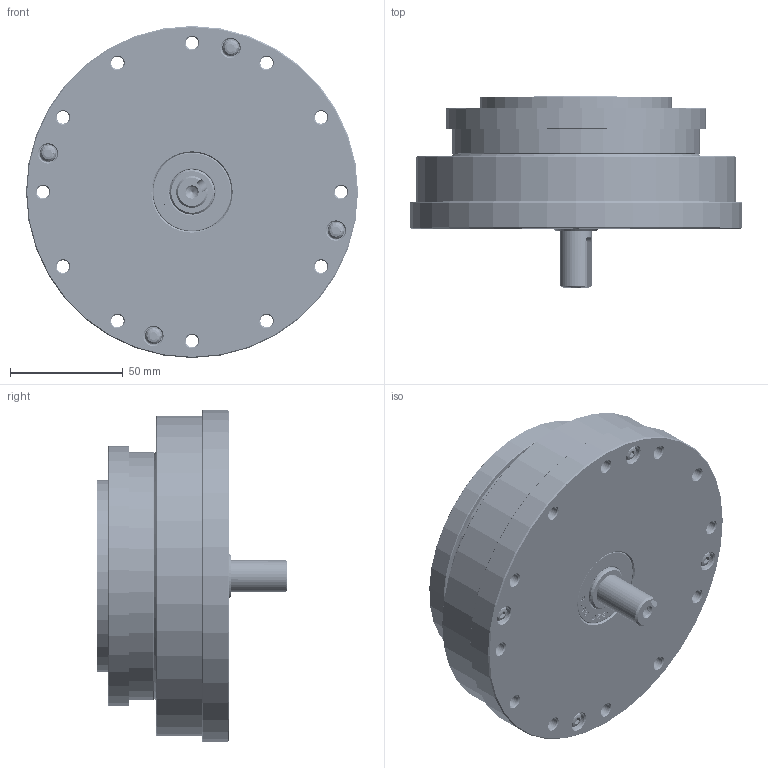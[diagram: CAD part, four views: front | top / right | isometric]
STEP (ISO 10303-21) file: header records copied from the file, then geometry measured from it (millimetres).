
FILE_DESCRIPTION(/* description */ (''),/* implementation_level */ '2;1');
FILE_NAME(/* name */ 'XBJ32成品图.prt.stp',/* time_stamp */ '2022-07-21T18:20:13+08:00',/* author */ (''),/* organization */ (''),/* preprocessor_version */ 'ST-DEVELOPER v16',/* originating_system */ 'SIEMENS PLM Software NX 10.0',/* authorisation */ '');
FILE_SCHEMA (('CONFIG_CONTROL_DESIGN'));
Products named in the file (21): 32柔性轴承保持架(日标）; YM4X12; M4X22; 平键销6X14; G20355; XBJ32-5输入轴; XBJ32-3-1凸轮; 深沟球轴承6902-ZZ; XBJ32-6上盖板; 内卡簧φ42X1.5; 深沟球轴承-6004ZZ; XBJ32-7下盖板; G1101226; XBK32-1钢轮; M3X 8; XBK32-4-1-1销子; XBK32-4-1内芯; XBK32-4-2外圈; XBK32-2柔轮; 32柔性轴承(日标）_MODEL; XBJ32成品图
Assembly tree (26 placements, depth 3):
  XBJ32成品图
    XBK32-2柔轮
    XBK32-4-2外圈
    XBK32-4-1内芯
    XBK32-4-1-1销子
    M3X 8
    XBK32-1钢轮
    G1101226
    XBJ32-7下盖板
    深沟球轴承-6004ZZ
    内卡簧φ42X1.5
    XBJ32-6上盖板
    深沟球轴承6902-ZZ
    32柔性轴承(日标）_MODEL
      32柔性轴承保持架(日标）
    XBJ32-3-1凸轮
    XBJ32-5输入轴
    G20355
    平键销6X14
    M4X22  x4
    YM4X12  x4
Bounding box: 147 x 84.5 x 147 mm (x, y, z)
Volume: 488721.5 mm3; surface area: 278744.2 mm2
Topology: 81 solids, 82 shells, 1458 faces, 3693 edges, 2405 vertices
Faces by surface type: plane 496, cylinder 390, cone 280, bspline 124, extrusion 90, sphere 53, torus 25
Full cylindrical faces by diameter (mm): 1.5 x2, 3 x1, 3.3 x56, 3.5 x1, 4.5 x16, 5.5 x68, 5.6 x1, 6 x1, 7.22 x4, 7.5 x8, 8 x8, 14 x1, 15 x2, 19 x1, 19.4 x2, 20 x3, 24 x2, 24.8 x2, 25 x1, 28 x4, 30 x1, 31 x1, 32 x1, 35 x2, 37.6 x2, 42 x3, 44.5 x1, 50 x1, 56 x1, 58.928 x1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
Entity records: 156983 total; most frequent: CARTESIAN_POINT 128463, DIRECTION 4905, ORIENTED_EDGE 4816, EDGE_CURVE 2408, AXIS2_PLACEMENT_3D 2070, EDGE_LOOP 1987, VERTEX_POINT 1861, FACE_BOUND 1389
